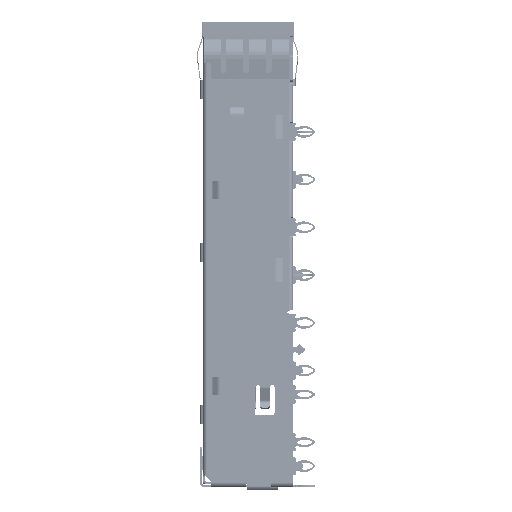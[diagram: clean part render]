
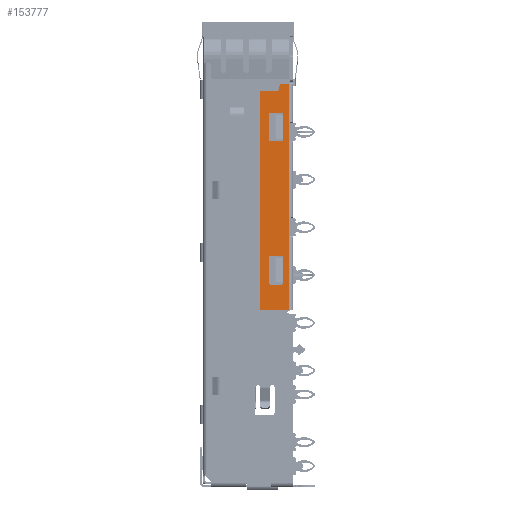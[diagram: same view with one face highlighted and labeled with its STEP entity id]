
A CAD part, left-side view. The second image highlights one B-rep face of the part: STEP entity #153777.
In plain terms, the highlighted planar face has unit normal (-1, 0, 0).
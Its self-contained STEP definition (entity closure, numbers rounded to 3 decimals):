
#37353=DIRECTION('',(0.,1.,0.));
#37354=VECTOR('',#37353,0.75);
#37355=CARTESIAN_POINT('',(-43.175,-9.05,-6.5));
#37356=LINE('',#37355,#37354);
#37389=DIRECTION('',(0.,0.,1.));
#37390=VECTOR('',#37389,4.225);
#37391=CARTESIAN_POINT('',(-43.175,-9.05,-10.725));
#37392=LINE('',#37391,#37390);
#37396=CARTESIAN_POINT('',(-43.175,-9.05,-10.725));
#37464=CARTESIAN_POINT('',(-43.175,-9.05,-12.275));
#37490=DIRECTION('',(0.,0.,1.));
#37491=VECTOR('',#37490,8.45);
#37492=CARTESIAN_POINT('',(-43.175,-9.05,-20.725));
#37493=LINE('',#37492,#37491);
#37497=CARTESIAN_POINT('',(-43.175,-9.05,-20.725));
#37565=CARTESIAN_POINT('',(-43.175,-9.05,-22.275));
#37591=DIRECTION('',(0.,0.,1.));
#37592=VECTOR('',#37591,7.875);
#37593=CARTESIAN_POINT('',(-43.175,-9.05,-30.15));
#37594=LINE('',#37593,#37592);
#37729=DIRECTION('',(0.,1.,0.));
#37730=VECTOR('',#37729,3.05);
#37731=CARTESIAN_POINT('',(-43.175,-9.05,-30.15));
#37732=LINE('',#37731,#37730);
#37736=DIRECTION('',(0.,0.,1.));
#37737=VECTOR('',#37736,22.95);
#37738=CARTESIAN_POINT('',(-43.175,-6.,-30.15));
#37739=LINE('',#37738,#37737);
#37743=DIRECTION('',(0.,-1.,0.));
#37744=VECTOR('',#37743,1.8);
#37745=CARTESIAN_POINT('',(-43.175,-6.,-7.2));
#37746=LINE('',#37745,#37744);
#37750=CARTESIAN_POINT('',(-43.175,-7.8,-6.95));
#37751=DIRECTION('',(-1.,0.,0.));
#37752=DIRECTION('',(0.,0.,-1.));
#37753=AXIS2_PLACEMENT_3D('',#37750,#37751,#37752);
#37758=DIRECTION('',(0.,0.,1.));
#37759=VECTOR('',#37758,0.2);
#37760=CARTESIAN_POINT('',(-43.175,-8.05,-6.95));
#37761=LINE('',#37760,#37759);
#37765=CARTESIAN_POINT('',(-43.175,-8.3,-6.75));
#37766=DIRECTION('',(1.,0.,0.));
#37767=DIRECTION('',(0.,1.,0.));
#37768=AXIS2_PLACEMENT_3D('',#37765,#37766,#37767);
#37773=DIRECTION('',(0.,0.,-1.));
#37774=VECTOR('',#37773,1.55);
#37775=CARTESIAN_POINT('',(-43.175,-9.05,-10.725));
#37776=LINE('',#37775,#37774);
#37780=DIRECTION('',(0.,0.,-1.));
#37781=VECTOR('',#37780,1.55);
#37782=CARTESIAN_POINT('',(-43.175,-9.05,-20.725));
#37783=LINE('',#37782,#37781);
#37787=DIRECTION('',(0.,0.,1.));
#37788=VECTOR('',#37787,2.7);
#37789=CARTESIAN_POINT('',(-43.175,-8.45,-12.35));
#37790=LINE('',#37789,#37788);
#37794=CARTESIAN_POINT('',(-43.175,-8.3,-9.65));
#37795=DIRECTION('',(-1.,0.,0.));
#37796=DIRECTION('',(0.,-1.,0.));
#37797=AXIS2_PLACEMENT_3D('',#37794,#37795,#37796);
#37802=DIRECTION('',(0.,1.,0.));
#37803=VECTOR('',#37802,1.2);
#37804=CARTESIAN_POINT('',(-43.175,-8.3,-9.5));
#37805=LINE('',#37804,#37803);
#37809=CARTESIAN_POINT('',(-43.175,-7.1,-9.65));
#37810=DIRECTION('',(-1.,0.,0.));
#37811=DIRECTION('',(0.,0.,1.));
#37812=AXIS2_PLACEMENT_3D('',#37809,#37810,#37811);
#37817=DIRECTION('',(0.,0.,-1.));
#37818=VECTOR('',#37817,2.7);
#37819=CARTESIAN_POINT('',(-43.175,-6.95,-9.65));
#37820=LINE('',#37819,#37818);
#37824=CARTESIAN_POINT('',(-43.175,-7.1,-12.35));
#37825=DIRECTION('',(-1.,0.,0.));
#37826=DIRECTION('',(0.,1.,0.));
#37827=AXIS2_PLACEMENT_3D('',#37824,#37825,#37826);
#37832=DIRECTION('',(0.,-1.,0.));
#37833=VECTOR('',#37832,1.2);
#37834=CARTESIAN_POINT('',(-43.175,-7.1,-12.5));
#37835=LINE('',#37834,#37833);
#37839=CARTESIAN_POINT('',(-43.175,-8.3,-12.35));
#37840=DIRECTION('',(-1.,0.,0.));
#37841=DIRECTION('',(0.,0.,-1.));
#37842=AXIS2_PLACEMENT_3D('',#37839,#37840,#37841);
#37847=DIRECTION('',(0.,0.,1.));
#37848=VECTOR('',#37847,2.7);
#37849=CARTESIAN_POINT('',(-43.175,-8.45,-27.35));
#37850=LINE('',#37849,#37848);
#37854=CARTESIAN_POINT('',(-43.175,-8.3,-24.65));
#37855=DIRECTION('',(-1.,0.,0.));
#37856=DIRECTION('',(0.,-1.,0.));
#37857=AXIS2_PLACEMENT_3D('',#37854,#37855,#37856);
#37862=DIRECTION('',(0.,1.,0.));
#37863=VECTOR('',#37862,1.2);
#37864=CARTESIAN_POINT('',(-43.175,-8.3,-24.5));
#37865=LINE('',#37864,#37863);
#37869=CARTESIAN_POINT('',(-43.175,-7.1,-24.65));
#37870=DIRECTION('',(-1.,0.,0.));
#37871=DIRECTION('',(0.,0.,1.));
#37872=AXIS2_PLACEMENT_3D('',#37869,#37870,#37871);
#37877=DIRECTION('',(0.,0.,-1.));
#37878=VECTOR('',#37877,2.7);
#37879=CARTESIAN_POINT('',(-43.175,-6.95,-24.65));
#37880=LINE('',#37879,#37878);
#37884=CARTESIAN_POINT('',(-43.175,-7.1,-27.35));
#37885=DIRECTION('',(-1.,0.,0.));
#37886=DIRECTION('',(0.,1.,0.));
#37887=AXIS2_PLACEMENT_3D('',#37884,#37885,#37886);
#37892=DIRECTION('',(0.,-1.,0.));
#37893=VECTOR('',#37892,1.2);
#37894=CARTESIAN_POINT('',(-43.175,-7.1,-27.5));
#37895=LINE('',#37894,#37893);
#37899=CARTESIAN_POINT('',(-43.175,-8.3,-27.35));
#37900=DIRECTION('',(-1.,0.,0.));
#37901=DIRECTION('',(0.,0.,-1.));
#37902=AXIS2_PLACEMENT_3D('',#37899,#37900,#37901);
#122506=VERTEX_POINT('',#37396);
#122507=CARTESIAN_POINT('',(-43.175,-9.05,-6.5));
#122508=VERTEX_POINT('',#122507);
#122518=VERTEX_POINT('',#37464);
#122521=VERTEX_POINT('',#37497);
#122531=VERTEX_POINT('',#37565);
#122534=CARTESIAN_POINT('',(-43.175,-9.05,-30.15));
#122535=VERTEX_POINT('',#122534);
#123420=CARTESIAN_POINT('',(-43.175,-8.3,-6.5));
#123421=VERTEX_POINT('',#123420);
#123424=CARTESIAN_POINT('',(-43.175,-6.,-30.15));
#123425=VERTEX_POINT('',#123424);
#123426=CARTESIAN_POINT('',(-43.175,-6.,-7.2));
#123427=VERTEX_POINT('',#123426);
#123428=CARTESIAN_POINT('',(-43.175,-7.8,-7.2));
#123429=VERTEX_POINT('',#123428);
#123430=CARTESIAN_POINT('',(-43.175,-8.05,-6.95));
#123431=VERTEX_POINT('',#123430);
#123432=CARTESIAN_POINT('',(-43.175,-8.05,-6.75));
#123433=VERTEX_POINT('',#123432);
#123434=CARTESIAN_POINT('',(-43.175,-8.45,-12.35));
#123435=CARTESIAN_POINT('',(-43.175,-8.45,-9.65));
#123436=VERTEX_POINT('',#123434);
#123437=VERTEX_POINT('',#123435);
#123438=CARTESIAN_POINT('',(-43.175,-8.3,-9.5));
#123439=VERTEX_POINT('',#123438);
#123440=CARTESIAN_POINT('',(-43.175,-7.1,-9.5));
#123441=VERTEX_POINT('',#123440);
#123442=CARTESIAN_POINT('',(-43.175,-6.95,-9.65));
#123443=VERTEX_POINT('',#123442);
#123444=CARTESIAN_POINT('',(-43.175,-6.95,-12.35));
#123445=VERTEX_POINT('',#123444);
#123446=CARTESIAN_POINT('',(-43.175,-7.1,-12.5));
#123447=VERTEX_POINT('',#123446);
#123448=CARTESIAN_POINT('',(-43.175,-8.3,-12.5));
#123449=VERTEX_POINT('',#123448);
#123450=CARTESIAN_POINT('',(-43.175,-8.45,-27.35));
#123451=CARTESIAN_POINT('',(-43.175,-8.45,-24.65));
#123452=VERTEX_POINT('',#123450);
#123453=VERTEX_POINT('',#123451);
#123454=CARTESIAN_POINT('',(-43.175,-8.3,-24.5));
#123455=VERTEX_POINT('',#123454);
#123456=CARTESIAN_POINT('',(-43.175,-7.1,-24.5));
#123457=VERTEX_POINT('',#123456);
#123458=CARTESIAN_POINT('',(-43.175,-6.95,-24.65));
#123459=VERTEX_POINT('',#123458);
#123460=CARTESIAN_POINT('',(-43.175,-6.95,-27.35));
#123461=VERTEX_POINT('',#123460);
#123462=CARTESIAN_POINT('',(-43.175,-7.1,-27.5));
#123463=VERTEX_POINT('',#123462);
#123464=CARTESIAN_POINT('',(-43.175,-8.3,-27.5));
#123465=VERTEX_POINT('',#123464);
#153716=CARTESIAN_POINT('',(-43.175,-6.15,0.));
#153717=DIRECTION('',(-1.,0.,0.));
#153718=DIRECTION('',(0.,-1.,0.));
#153719=AXIS2_PLACEMENT_3D('',#153716,#153717,#153718);
#153720=PLANE('',#153719);
#153721=ORIENTED_EDGE('',*,*,#153628,.T.);
#153723=ORIENTED_EDGE('',*,*,#153722,.T.);
#153724=ORIENTED_EDGE('',*,*,#153706,.T.);
#153726=ORIENTED_EDGE('',*,*,#153725,.T.);
#153728=ORIENTED_EDGE('',*,*,#153727,.T.);
#153730=ORIENTED_EDGE('',*,*,#153729,.T.);
#153731=ORIENTED_EDGE('',*,*,#153307,.F.);
#153732=ORIENTED_EDGE('',*,*,#153331,.F.);
#153734=ORIENTED_EDGE('',*,*,#153733,.T.);
#153735=ORIENTED_EDGE('',*,*,#153471,.F.);
#153737=ORIENTED_EDGE('',*,*,#153736,.T.);
#153738=ORIENTED_EDGE('',*,*,#153613,.F.);
#153739=EDGE_LOOP('',(#153721,#153723,#153724,#153726,#153728,#153730,#153731,
#153732,#153734,#153735,#153737,#153738));
#153740=FACE_OUTER_BOUND('',#153739,.F.);
#153742=ORIENTED_EDGE('',*,*,#153741,.T.);
#153744=ORIENTED_EDGE('',*,*,#153743,.T.);
#153746=ORIENTED_EDGE('',*,*,#153745,.T.);
#153748=ORIENTED_EDGE('',*,*,#153747,.T.);
#153750=ORIENTED_EDGE('',*,*,#153749,.T.);
#153752=ORIENTED_EDGE('',*,*,#153751,.T.);
#153754=ORIENTED_EDGE('',*,*,#153753,.T.);
#153756=ORIENTED_EDGE('',*,*,#153755,.T.);
#153757=EDGE_LOOP('',(#153742,#153744,#153746,#153748,#153750,#153752,#153754,
#153756));
#153758=FACE_BOUND('',#153757,.F.);
#153760=ORIENTED_EDGE('',*,*,#153759,.T.);
#153762=ORIENTED_EDGE('',*,*,#153761,.T.);
#153764=ORIENTED_EDGE('',*,*,#153763,.T.);
#153766=ORIENTED_EDGE('',*,*,#153765,.T.);
#153768=ORIENTED_EDGE('',*,*,#153767,.T.);
#153770=ORIENTED_EDGE('',*,*,#153769,.T.);
#153772=ORIENTED_EDGE('',*,*,#153771,.T.);
#153774=ORIENTED_EDGE('',*,*,#153773,.T.);
#153775=EDGE_LOOP('',(#153760,#153762,#153764,#153766,#153768,#153770,#153772,
#153774));
#153776=FACE_BOUND('',#153775,.F.);
#37754=CIRCLE('',#37753,0.25);
#37769=CIRCLE('',#37768,0.25);
#37798=CIRCLE('',#37797,0.15);
#37813=CIRCLE('',#37812,0.15);
#37828=CIRCLE('',#37827,0.15);
#37843=CIRCLE('',#37842,0.15);
#37858=CIRCLE('',#37857,0.15);
#37873=CIRCLE('',#37872,0.15);
#37888=CIRCLE('',#37887,0.15);
#37903=CIRCLE('',#37902,0.15);
#153307=EDGE_CURVE('',#122508,#123421,#37356,.T.);
#153331=EDGE_CURVE('',#122506,#122508,#37392,.T.);
#153471=EDGE_CURVE('',#122521,#122518,#37493,.T.);
#153613=EDGE_CURVE('',#122535,#122531,#37594,.T.);
#153628=EDGE_CURVE('',#122535,#123425,#37732,.T.);
#153706=EDGE_CURVE('',#123427,#123429,#37746,.T.);
#153722=EDGE_CURVE('',#123425,#123427,#37739,.T.);
#153725=EDGE_CURVE('',#123429,#123431,#37754,.T.);
#153727=EDGE_CURVE('',#123431,#123433,#37761,.T.);
#153729=EDGE_CURVE('',#123433,#123421,#37769,.T.);
#153733=EDGE_CURVE('',#122506,#122518,#37776,.T.);
#153736=EDGE_CURVE('',#122521,#122531,#37783,.T.);
#153741=EDGE_CURVE('',#123436,#123437,#37790,.T.);
#153743=EDGE_CURVE('',#123437,#123439,#37798,.T.);
#153745=EDGE_CURVE('',#123439,#123441,#37805,.T.);
#153747=EDGE_CURVE('',#123441,#123443,#37813,.T.);
#153749=EDGE_CURVE('',#123443,#123445,#37820,.T.);
#153751=EDGE_CURVE('',#123445,#123447,#37828,.T.);
#153753=EDGE_CURVE('',#123447,#123449,#37835,.T.);
#153755=EDGE_CURVE('',#123449,#123436,#37843,.T.);
#153759=EDGE_CURVE('',#123452,#123453,#37850,.T.);
#153761=EDGE_CURVE('',#123453,#123455,#37858,.T.);
#153763=EDGE_CURVE('',#123455,#123457,#37865,.T.);
#153765=EDGE_CURVE('',#123457,#123459,#37873,.T.);
#153767=EDGE_CURVE('',#123459,#123461,#37880,.T.);
#153769=EDGE_CURVE('',#123461,#123463,#37888,.T.);
#153771=EDGE_CURVE('',#123463,#123465,#37895,.T.);
#153773=EDGE_CURVE('',#123465,#123452,#37903,.T.);
#153777=ADVANCED_FACE('',(#153740,#153758,#153776),#153720,.T.);
